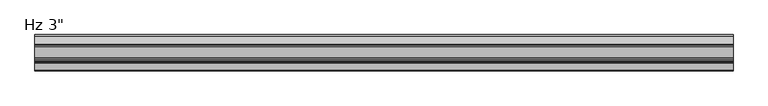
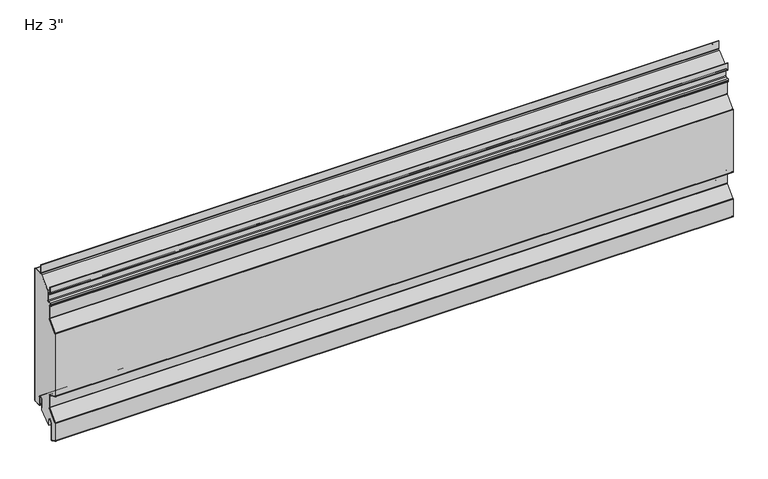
"""IFC4 building model written with IfcOpenShell, lengths in millimetres: plate geometry."""

from ifc_helpers import new_model, si_unit, point, frame, frame_2d, origin, place, context, project, spatial, polyline, circle_curve, trimmed, segment, composite_curve, outline, extrude, source, transform, mapped, element, save


def plate_06e6776e(model_context):
    return source(origin(), model_context, "Body", "SweptSolid", [
        extrude(outline(composite_curve([segment(polyline([(-26.4011912, 19.05), (-26.4011912, -3.1976612), (-49.233822, -23.01875), (-51.3886912, -23.01875), (-51.3886912, -11.90625)]), True, "CONTINUOUS"), segment(trimmed(circle_curve(frame_2d((-56.3574412, -11.90625)), 4.96875), [point((-51.3886912, -11.90625))], [point((-61.3261912, -11.90625))], True, "CARTESIAN"), True, "CONTINUOUS"), segment(polyline([(-61.3261912, -11.90625), (-61.3261912, -48.8194049)]), True, "CONTINUOUS"), segment(trimmed(circle_curve(frame_2d((-62.7074412, -48.8194049)), 1.38125), [point((-61.3261912, -48.8194049))], [point((-63.2666208, -50.0824052))], False, "CARTESIAN"), True, "CONTINUOUS"), segment(polyline([(-63.2666208, -50.0824052), (-74.3779296, -45.1629946)]), True, "CONTINUOUS"), segment(trimmed(circle_curve(frame_2d((-73.81875, -43.8999943)), 1.38125), [point((-74.3779296, -45.1629946))], [point((-75.2, -43.8999943))], False, "CARTESIAN"), True, "CONTINUOUS"), segment(polyline([(-75.2, -43.8999943), (-75.2, -5.0536946)]), True, "CONTINUOUS"), segment(trimmed(circle_curve(frame_2d((-73.1012, -5.0536946)), 2.0988), [point((-75.2, -5.0536946))], [point((-74.6092077, -3.5939431))], False, "CARTESIAN"), True, "CONTINUOUS"), segment(polyline([(-74.6092077, -3.5939431), (-54.4145567, 17.2682996)]), True, "CONTINUOUS"), segment(trimmed(circle_curve(frame_2d((-56.2737, 19.0679503)), 2.5875), [point((-54.4145567, 17.2682996))], [point((-53.6862, 19.0679503))], True, "CARTESIAN"), True, "CONTINUOUS"), segment(polyline([(-53.6862, 19.0679503), (-53.6862, 45.5917981)]), True, "CONTINUOUS"), segment(trimmed(circle_curve(frame_2d((-56.2737, 45.5917981)), 2.5875), [point((-53.6862, 45.5917981))], [point((-55.2261871, 47.9577806))], True, "CARTESIAN"), True, "CONTINUOUS"), segment(polyline([(-55.2261871, 47.9577806), (-74.3779296, 56.4370054)]), True, "CONTINUOUS"), segment(trimmed(circle_curve(frame_2d((-73.81875, 57.7000057)), 1.38125), [point((-74.3779296, 56.4370054))], [point((-75.2, 57.7000057))], False, "CARTESIAN"), True, "CONTINUOUS"), segment(polyline([(-75.2, 57.7000057), (-75.2, 198.4367131)]), True, "CONTINUOUS"), segment(trimmed(circle_curve(frame_2d((-73.81875, 198.4367131)), 1.38125), [point((-75.2, 198.4367131))], [point((-74.8111912, 199.3973962))], False, "CARTESIAN"), True, "CONTINUOUS"), segment(polyline([(-74.8111912, 199.3973962), (-54.4145567, 220.4682996)]), True, "CONTINUOUS"), segment(trimmed(circle_curve(frame_2d((-56.2737, 222.2679503)), 2.5875), [point((-54.4145567, 220.4682996))], [point((-53.6862, 222.2679503))], True, "CARTESIAN"), True, "CONTINUOUS"), segment(polyline([(-53.6862, 222.2679503), (-53.6862, 248.7917981)]), True, "CONTINUOUS"), segment(trimmed(circle_curve(frame_2d((-56.2737, 248.7917981)), 2.5875), [point((-53.6862, 248.7917981))], [point((-55.2261871, 251.1577806))], True, "CARTESIAN"), True, "CONTINUOUS"), segment(polyline([(-55.2261871, 251.1577806), (-56.9166208, 251.9062016)]), True, "CONTINUOUS"), segment(trimmed(circle_curve(frame_2d((-56.3574412, 253.1692019)), 1.38125), [point((-56.9166208, 251.9062016))], [point((-57.7386912, 253.1692019))], False, "CARTESIAN"), True, "CONTINUOUS"), segment(polyline([(-57.7386912, 253.1692019), (-57.7386912, 255.4967085)]), True, "CONTINUOUS"), segment(trimmed(circle_curve(frame_2d((-56.3574412, 255.4967085)), 1.38125), [point((-57.7386912, 255.4967085))], [point((-56.4297302, 256.8760655))], False, "CARTESIAN"), True, "CONTINUOUS"), segment(polyline([(-56.4297302, 256.8760655), (-50.6657719, 257.1781418)]), True, "CONTINUOUS"), segment(trimmed(circle_curve(frame_2d((-50.8011912, 259.7620957)), 2.5875), [point((-50.6657719, 257.1781418))], [point((-48.2136912, 259.7620957))], True, "CARTESIAN"), True, "CONTINUOUS"), segment(polyline([(-48.2136912, 259.7620957), (-48.2136912, 282.1892934), (-24.8719682, 303.00625), (-2.3824412, 303.00625)]), True, "CONTINUOUS"), segment(trimmed(circle_curve(frame_2d((-2.3824412, 301.625)), 1.38125), [point((-2.3824412, 303.00625))], [point((-1.0011912, 301.625))], False, "CARTESIAN"), True, "CONTINUOUS"), segment(polyline([(-1.0011912, 301.625), (-1.0011912, 3.175)]), True, "CONTINUOUS"), segment(trimmed(circle_curve(frame_2d((-2.3824412, 3.175)), 1.38125), [point((-1.0011912, 3.175))], [point((-2.3824412, 1.79375))], False, "CARTESIAN"), True, "CONTINUOUS"), segment(polyline([(-2.3824412, 1.79375), (-15.0824412, 1.79375)]), True, "CONTINUOUS"), segment(trimmed(circle_curve(frame_2d((-15.0824412, 3.175)), 1.38125), [point((-15.0824412, 1.79375))], [point((-16.4636912, 3.175))], False, "CARTESIAN"), True, "CONTINUOUS"), segment(polyline([(-16.4636912, 3.175), (-16.4636912, 19.05)]), True, "CONTINUOUS"), segment(trimmed(circle_curve(frame_2d((-21.4324412, 19.05)), 4.96875), [point((-16.4636912, 19.05))], [point((-26.4011912, 19.05))], True, "CARTESIAN"), True, "CONTINUOUS")], self_intersect=False)), frame((-730.0, 0.0, 0.0), z_axis=(1.0, 0.0, 0.0), x_axis=(0.0, 1.0, 0.0)), (0.0, 0.0, 1.0), 1460.0),
        extrude(outline(composite_curve([segment(polyline([(-25.4, 0.79375), (-26.4, 0.79375), (-26.4, 19.05)]), True, "CONTINUOUS"), segment(trimmed(circle_curve(frame_2d((-21.43125, 19.05)), 4.96875), [point((-26.4, 19.05))], [point((-16.4625, 19.05))], False, "CARTESIAN"), True, "CONTINUOUS"), segment(polyline([(-16.4625, 19.05), (-16.4625, 3.175)]), True, "CONTINUOUS"), segment(trimmed(circle_curve(frame_2d((-15.08125, 3.175)), 1.38125), [point((-16.4625, 3.175))], [point((-15.08125, 1.79375))], True, "CARTESIAN"), True, "CONTINUOUS"), segment(polyline([(-15.08125, 1.79375), (-2.38125, 1.79375)]), True, "CONTINUOUS"), segment(trimmed(circle_curve(frame_2d((-2.38125, 3.175)), 1.38125), [point((-2.38125, 1.79375))], [point((-1.0, 3.175))], True, "CARTESIAN"), True, "CONTINUOUS"), segment(polyline([(-1.0, 3.175), (-1.0, 301.625)]), True, "CONTINUOUS"), segment(trimmed(circle_curve(frame_2d((-2.38125, 301.625)), 1.38125), [point((-1.0, 301.625))], [point((-2.38125, 303.00625))], True, "CARTESIAN"), True, "CONTINUOUS"), segment(polyline([(-2.38125, 303.00625), (-19.446875, 303.00625)]), True, "CONTINUOUS"), segment(trimmed(circle_curve(frame_2d((-19.446875, 305.59375)), 2.5875), [point((-19.446875, 303.00625))], [point((-22.034375, 305.59375))], False, "CARTESIAN"), True, "CONTINUOUS"), segment(polyline([(-22.034375, 305.59375), (-22.034375, 323.05625), (-21.034375, 323.05625), (-21.034375, 305.59375)]), True, "CONTINUOUS"), segment(trimmed(circle_curve(frame_2d((-19.446875, 305.59375)), 1.5875), [point((-21.034375, 305.59375))], [point((-19.446875, 304.00625))], True, "CARTESIAN"), True, "CONTINUOUS"), segment(polyline([(-19.446875, 304.00625), (-2.38125, 304.00625)]), True, "CONTINUOUS"), segment(trimmed(circle_curve(frame_2d((-2.38125, 301.625)), 2.38125), [point((-2.38125, 304.00625))], [point((0.0, 301.625))], False, "CARTESIAN"), True, "CONTINUOUS"), segment(polyline([(0.0, 301.625), (0.0, 3.175)]), True, "CONTINUOUS"), segment(trimmed(circle_curve(frame_2d((-2.38125, 3.175)), 2.38125), [point((0.0, 3.175))], [point((-2.38125, 0.79375))], False, "CARTESIAN"), True, "CONTINUOUS"), segment(polyline([(-2.38125, 0.79375), (-15.08125, 0.79375)]), True, "CONTINUOUS"), segment(trimmed(circle_curve(frame_2d((-15.08125, 3.175)), 2.38125), [point((-15.08125, 0.79375))], [point((-17.4625, 3.175))], False, "CARTESIAN"), True, "CONTINUOUS"), segment(polyline([(-17.4625, 3.175), (-17.4625, 19.05)]), True, "CONTINUOUS"), segment(trimmed(circle_curve(frame_2d((-21.43125, 19.05)), 3.96875), [point((-17.4625, 19.05))], [point((-25.4, 19.05))], True, "CARTESIAN"), True, "CONTINUOUS"), segment(polyline([(-25.4, 19.05), (-25.4, 0.79375)]), True, "CONTINUOUS")], self_intersect=False)), frame((-730.0, 0.0, 0.0), z_axis=(1.0, 0.0, 0.0), x_axis=(0.0, 1.0, 0.0)), (0.0, 0.0, 1.0), 1460.0),
        extrude(outline(composite_curve([segment(polyline([(-60.3261912, -11.90625), (-60.3261912, -48.8194049)]), True, "CONTINUOUS"), segment(trimmed(circle_curve(frame_2d((-62.7074412, -48.8194049)), 2.38125), [point((-60.3261912, -48.8194049))], [point((-63.6714567, -50.9967946))], False, "CARTESIAN"), True, "CONTINUOUS"), segment(polyline([(-63.6714567, -50.9967946), (-74.7827655, -46.0773839)]), True, "CONTINUOUS"), segment(trimmed(circle_curve(frame_2d((-73.81875, -43.8999943)), 2.38125), [point((-74.7827655, -46.0773839))], [point((-76.2, -43.8999943))], False, "CARTESIAN"), True, "CONTINUOUS"), segment(polyline([(-76.2, -43.8999943), (-76.2, -5.0536946)]), True, "CONTINUOUS"), segment(trimmed(circle_curve(frame_2d((-73.1012, -5.0536946)), 3.0988), [point((-76.2, -5.0536946))], [point((-75.3277172, -2.8984259))], False, "CARTESIAN"), True, "CONTINUOUS"), segment(polyline([(-75.3277172, -2.8984259), (-55.1330662, 17.9638168)]), True, "CONTINUOUS"), segment(trimmed(circle_curve(frame_2d((-56.2737, 19.0679503)), 1.5875), [point((-55.1330662, 17.9638168))], [point((-54.6862, 19.0679503))], True, "CARTESIAN"), True, "CONTINUOUS"), segment(polyline([(-54.6862, 19.0679503), (-54.6862, 45.5917981)]), True, "CONTINUOUS"), segment(trimmed(circle_curve(frame_2d((-56.2737, 45.5917981)), 1.5875), [point((-54.6862, 45.5917981))], [point((-55.631023, 47.0433912))], True, "CARTESIAN"), True, "CONTINUOUS"), segment(polyline([(-55.631023, 47.0433912), (-74.7827655, 55.5226161)]), True, "CONTINUOUS"), segment(trimmed(circle_curve(frame_2d((-73.81875, 57.7000057)), 2.38125), [point((-74.7827655, 55.5226161))], [point((-76.2, 57.7000057))], False, "CARTESIAN"), True, "CONTINUOUS"), segment(polyline([(-76.2, 57.7000057), (-76.2, 198.4367131)]), True, "CONTINUOUS"), segment(trimmed(circle_curve(frame_2d((-73.81875, 198.4367131)), 2.38125), [point((-76.2, 198.4367131))], [point((-75.5297007, 200.0929134))], False, "CARTESIAN"), True, "CONTINUOUS"), segment(polyline([(-75.5297007, 200.0929134), (-55.1330662, 221.1638168)]), True, "CONTINUOUS"), segment(trimmed(circle_curve(frame_2d((-56.2737, 222.2679503)), 1.5875), [point((-55.1330662, 221.1638168))], [point((-54.6862, 222.2679503))], True, "CARTESIAN"), True, "CONTINUOUS"), segment(polyline([(-54.6862, 222.2679503), (-54.6862, 248.7917981)]), True, "CONTINUOUS"), segment(trimmed(circle_curve(frame_2d((-56.2737, 248.7917981)), 1.5875), [point((-54.6862, 248.7917981))], [point((-55.631023, 250.2433912))], True, "CARTESIAN"), True, "CONTINUOUS"), segment(polyline([(-55.631023, 250.2433912), (-57.3214567, 250.9918123)]), True, "CONTINUOUS"), segment(trimmed(circle_curve(frame_2d((-56.3574412, 253.1692019)), 2.38125), [point((-57.3214567, 250.9918123))], [point((-58.7386912, 253.1692019))], False, "CARTESIAN"), True, "CONTINUOUS"), segment(polyline([(-58.7386912, 253.1692019), (-58.7386912, 255.4967085)]), True, "CONTINUOUS"), segment(trimmed(circle_curve(frame_2d((-56.3574412, 255.4967085)), 2.38125), [point((-58.7386912, 255.4967085))], [point((-56.4820662, 257.8746951))], False, "CARTESIAN"), True, "CONTINUOUS"), segment(polyline([(-56.4820662, 257.8746951), (-50.7181078, 258.1767713)]), True, "CONTINUOUS"), segment(trimmed(circle_curve(frame_2d((-50.8011912, 259.7620957)), 1.5875), [point((-50.7181078, 258.1767713))], [point((-49.2136912, 259.7620957))], True, "CARTESIAN"), True, "CONTINUOUS"), segment(polyline([(-49.2136912, 259.7620957), (-49.2136912, 274.6375)]), True, "CONTINUOUS"), segment(trimmed(circle_curve(frame_2d((-50.8011912, 274.6375)), 1.5875), [point((-49.2136912, 274.6375))], [point((-50.8011912, 276.225))], True, "CARTESIAN"), True, "CONTINUOUS"), segment(polyline([(-50.8011912, 276.225), (-54.3730662, 276.225)]), True, "CONTINUOUS"), segment(trimmed(circle_curve(frame_2d((-54.3730662, 278.60625)), 2.38125), [point((-54.3730662, 276.225))], [point((-56.7543162, 278.60625))], False, "CARTESIAN"), True, "CONTINUOUS"), segment(polyline([(-56.7543162, 278.60625), (-56.7543162, 292.89375), (-55.7543162, 292.89375), (-55.7543162, 278.60625)]), True, "CONTINUOUS"), segment(trimmed(circle_curve(frame_2d((-54.3730662, 278.60625)), 1.38125), [point((-55.7543162, 278.60625))], [point((-54.3730662, 277.225))], True, "CARTESIAN"), True, "CONTINUOUS"), segment(polyline([(-54.3730662, 277.225), (-50.8011912, 277.225)]), True, "CONTINUOUS"), segment(trimmed(circle_curve(frame_2d((-50.8011912, 274.6375)), 2.5875), [point((-50.8011912, 277.225))], [point((-48.2136912, 274.6375))], False, "CARTESIAN"), True, "CONTINUOUS"), segment(polyline([(-48.2136912, 274.6375), (-48.2136912, 259.7620957)]), True, "CONTINUOUS"), segment(trimmed(circle_curve(frame_2d((-50.8011912, 259.7620957)), 2.5875), [point((-48.2136912, 259.7620957))], [point((-50.6657719, 257.1781418))], False, "CARTESIAN"), True, "CONTINUOUS"), segment(polyline([(-50.6657719, 257.1781418), (-56.4297302, 256.8760655)]), True, "CONTINUOUS"), segment(trimmed(circle_curve(frame_2d((-56.3574412, 255.4967085)), 1.38125), [point((-56.4297302, 256.8760655))], [point((-57.7386912, 255.4967085))], True, "CARTESIAN"), True, "CONTINUOUS"), segment(polyline([(-57.7386912, 255.4967085), (-57.7386912, 253.1692019)]), True, "CONTINUOUS"), segment(trimmed(circle_curve(frame_2d((-56.3574412, 253.1692019)), 1.38125), [point((-57.7386912, 253.1692019))], [point((-56.9166208, 251.9062016))], True, "CARTESIAN"), True, "CONTINUOUS"), segment(polyline([(-56.9166208, 251.9062016), (-55.2261871, 251.1577806)]), True, "CONTINUOUS"), segment(trimmed(circle_curve(frame_2d((-56.2737, 248.7917981)), 2.5875), [point((-55.2261871, 251.1577806))], [point((-53.6862, 248.7917981))], False, "CARTESIAN"), True, "CONTINUOUS"), segment(polyline([(-53.6862, 248.7917981), (-53.6862, 222.2679503)]), True, "CONTINUOUS"), segment(trimmed(circle_curve(frame_2d((-56.2737, 222.2679503)), 2.5875), [point((-53.6862, 222.2679503))], [point((-54.4145567, 220.4682996))], False, "CARTESIAN"), True, "CONTINUOUS"), segment(polyline([(-54.4145567, 220.4682996), (-74.8111912, 199.3973962)]), True, "CONTINUOUS"), segment(trimmed(circle_curve(frame_2d((-73.81875, 198.4367131)), 1.38125), [point((-74.8111912, 199.3973962))], [point((-75.2, 198.4367131))], True, "CARTESIAN"), True, "CONTINUOUS"), segment(polyline([(-75.2, 198.4367131), (-75.2, 57.7000057)]), True, "CONTINUOUS"), segment(trimmed(circle_curve(frame_2d((-73.81875, 57.7000057)), 1.38125), [point((-75.2, 57.7000057))], [point((-74.3779296, 56.4370054))], True, "CARTESIAN"), True, "CONTINUOUS"), segment(polyline([(-74.3779296, 56.4370054), (-55.2261871, 47.9577806)]), True, "CONTINUOUS"), segment(trimmed(circle_curve(frame_2d((-56.2737, 45.5917981)), 2.5875), [point((-55.2261871, 47.9577806))], [point((-53.6862, 45.5917981))], False, "CARTESIAN"), True, "CONTINUOUS"), segment(polyline([(-53.6862, 45.5917981), (-53.6862, 19.0679503)]), True, "CONTINUOUS"), segment(trimmed(circle_curve(frame_2d((-56.2737, 19.0679503)), 2.5875), [point((-53.6862, 19.0679503))], [point((-54.4145567, 17.2682996))], False, "CARTESIAN"), True, "CONTINUOUS"), segment(polyline([(-54.4145567, 17.2682996), (-74.6092077, -3.5939431)]), True, "CONTINUOUS"), segment(trimmed(circle_curve(frame_2d((-73.1012, -5.0536946)), 2.0988), [point((-74.6092077, -3.5939431))], [point((-75.2, -5.0536946))], True, "CARTESIAN"), True, "CONTINUOUS"), segment(polyline([(-75.2, -5.0536946), (-75.2, -43.8999943)]), True, "CONTINUOUS"), segment(trimmed(circle_curve(frame_2d((-73.81875, -43.8999943)), 1.38125), [point((-75.2, -43.8999943))], [point((-74.3779296, -45.1629946))], True, "CARTESIAN"), True, "CONTINUOUS"), segment(polyline([(-74.3779296, -45.1629946), (-63.2666208, -50.0824052)]), True, "CONTINUOUS"), segment(trimmed(circle_curve(frame_2d((-62.7074412, -48.8194049)), 1.38125), [point((-63.2666208, -50.0824052))], [point((-61.3261912, -48.8194049))], True, "CARTESIAN"), True, "CONTINUOUS"), segment(polyline([(-61.3261912, -48.8194049), (-61.3261912, -11.90625)]), True, "CONTINUOUS"), segment(trimmed(circle_curve(frame_2d((-56.3574412, -11.90625)), 4.96875), [point((-61.3261912, -11.90625))], [point((-51.3886912, -11.90625))], False, "CARTESIAN"), True, "CONTINUOUS"), segment(polyline([(-51.3886912, -11.90625), (-51.3886912, -23.01875), (-52.3886912, -23.01875), (-52.3886912, -11.90625)]), True, "CONTINUOUS"), segment(trimmed(circle_curve(frame_2d((-56.3574412, -11.90625)), 3.96875), [point((-52.3886912, -11.90625))], [point((-60.3261912, -11.90625))], True, "CARTESIAN"), True, "CONTINUOUS")], self_intersect=False)), frame((-730.0, 0.0, 0.0), z_axis=(1.0, 0.0, 0.0), x_axis=(0.0, 1.0, 0.0)), (0.0, 0.0, 1.0), 1460.0),
    ])


if __name__ == "__main__":
    model = new_model("IFC4")
    model_context = context("Model", 3, world=origin())
    ifc_project = project(units=[si_unit("LENGTHUNIT", "METRE", prefix="MILLI")], contexts=[model_context])
    site = spatial("IfcSite", under=ifc_project)
    building = spatial("IfcBuilding", under=site)
    placement = place(None, origin())
    plate_shape = plate_06e6776e(model_context)
    element("IfcPlate", 1, ObjectType="KIP-12-DWR-R19-CP-Hz-A : Hz 3\"", at=placement, inside=building, context=model_context, shape_type="MappedRepresentation", body=[
        mapped(plate_shape, transform((0.0, 0.0, 0.0), x_axis=(1.0, 0.0, 0.0), y_axis=(0.0, 1.0, 0.0), z_axis=(0.0, 0.0, 1.0))),
    ])
    save(model, "model.ifc")
